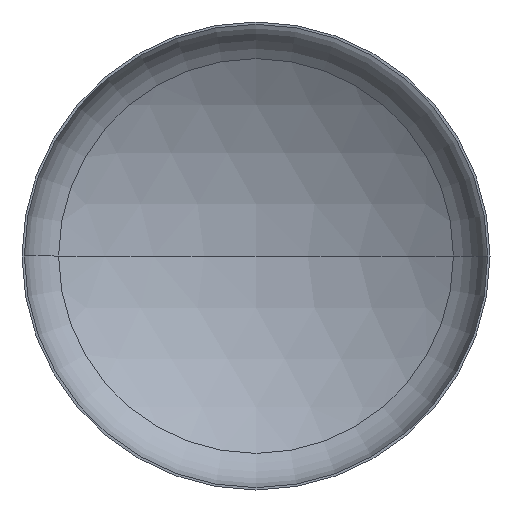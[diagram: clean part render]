
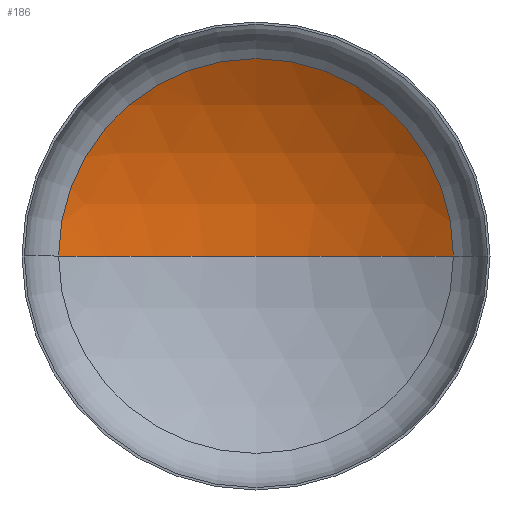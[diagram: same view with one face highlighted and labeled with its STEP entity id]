
A CAD part, front view. The second image highlights one B-rep face of the part: STEP entity #186.
In plain terms, the highlighted spherical face has radius 800 mm.
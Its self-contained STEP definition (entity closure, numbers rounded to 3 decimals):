
#4 = AXIS2_PLACEMENT_3D ( 'NONE', #274, #52, #98 ) ;
#18 = AXIS2_PLACEMENT_3D ( 'NONE', #324, #56, #208 ) ;
#23 = AXIS2_PLACEMENT_3D ( 'NONE', #236, #241, #394 ) ;
#36 = AXIS2_PLACEMENT_3D ( 'NONE', #151, #70, #132 ) ;
#52 = DIRECTION ( 'NONE',  ( 0., 0., 1. ) ) ;
#55 = EDGE_LOOP ( 'NONE', ( #372, #237, #73 ) ) ;
#56 = DIRECTION ( 'NONE',  ( 0., 0., -1. ) ) ;
#70 = DIRECTION ( 'NONE',  ( 0., 0., -1. ) ) ;
#72 = CARTESIAN_POINT ( 'NONE',  ( -421.705, 151.716, 0. ) ) ;
#73 = ORIENTED_EDGE ( 'NONE', *, *, #334, .T. ) ;
#98 = DIRECTION ( 'NONE',  ( 1., 0., 0. ) ) ;
#132 = DIRECTION ( 'NONE',  ( -1., 0., 0. ) ) ;
#145 = CARTESIAN_POINT ( 'NONE',  ( 421.705, 151.716, 0. ) ) ;
#151 = CARTESIAN_POINT ( 'NONE',  ( 0., -528.11, 0. ) ) ;
#186 = ADVANCED_FACE ( 'NONE', ( #374 ), #227, .F. ) ;
#198 = CIRCLE ( 'NONE', #23, 421.705 ) ;
#208 = DIRECTION ( 'NONE',  ( -1., 0., 0. ) ) ;
#212 = CARTESIAN_POINT ( 'NONE',  ( 0., 271.89, 0. ) ) ;
#218 = VERTEX_POINT ( 'NONE', #145 ) ;
#223 = VERTEX_POINT ( 'NONE', #212 ) ;
#227 = SPHERICAL_SURFACE ( 'NONE', #36, 800. ) ;
#236 = CARTESIAN_POINT ( 'NONE',  ( 0., 151.716, 0. ) ) ;
#237 = ORIENTED_EDGE ( 'NONE', *, *, #340, .T. ) ;
#241 = DIRECTION ( 'NONE',  ( 0., -1., 0. ) ) ;
#274 = CARTESIAN_POINT ( 'NONE',  ( 0., -528.11, 0. ) ) ;
#324 = CARTESIAN_POINT ( 'NONE',  ( 0., -528.11, 0. ) ) ;
#334 = EDGE_CURVE ( 'NONE', #218, #398, #198, .T. ) ;
#340 = EDGE_CURVE ( 'NONE', #223, #218, #352, .T. ) ;
#352 = CIRCLE ( 'NONE', #18, 800. ) ;
#372 = ORIENTED_EDGE ( 'NONE', *, *, #388, .F. ) ;
#374 = FACE_OUTER_BOUND ( 'NONE', #55, .T. ) ;
#388 = EDGE_CURVE ( 'NONE', #223, #398, #396, .T. ) ;
#394 = DIRECTION ( 'NONE',  ( 1., 0., 0. ) ) ;
#396 = CIRCLE ( 'NONE', #4, 800. ) ;
#398 = VERTEX_POINT ( 'NONE', #72 ) ;
